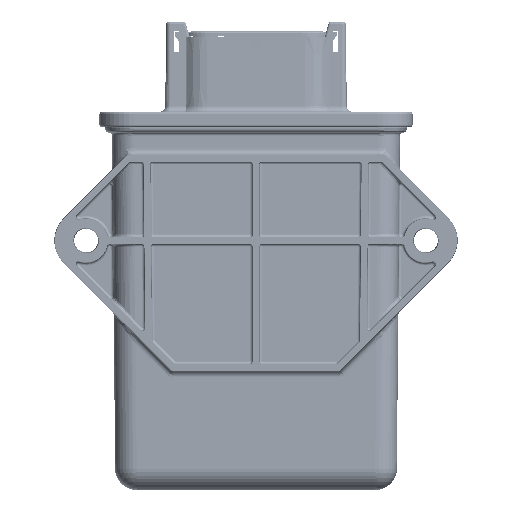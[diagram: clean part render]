
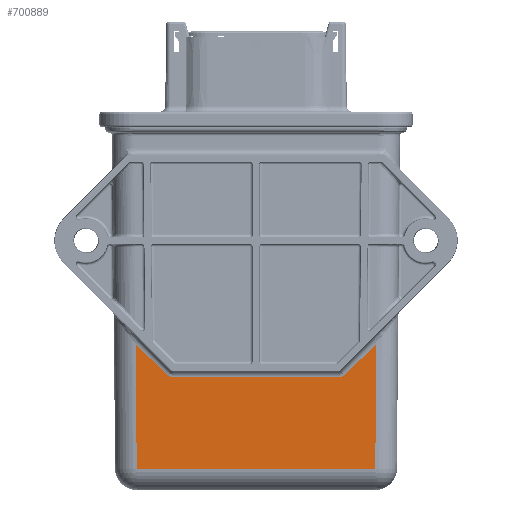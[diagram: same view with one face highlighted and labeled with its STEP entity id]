
A CAD part, front view. The second image highlights one B-rep face of the part: STEP entity #700889.
In plain terms, the highlighted planar face has unit normal (0, -1, -0.009) as drawn and (-1, 0, -0.009) by its records, which use the part's own axes.
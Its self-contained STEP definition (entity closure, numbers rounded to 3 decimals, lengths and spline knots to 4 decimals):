
#3366=ELLIPSE('',#747448,0.084,0.084);
#3367=ELLIPSE('',#747449,0.084,0.084);
#33593=PLANE('',#747447);
#67217=FACE_OUTER_BOUND('',#104185,.T.);
#104185=EDGE_LOOP('',(#620020,#620021,#620022,#620023,#620024,#620025,#620026,
#620027));
#184244=LINE('',#1120038,#265481);
#184245=LINE('',#1120042,#265482);
#184246=LINE('',#1120044,#265483);
#184247=LINE('',#1120046,#265484);
#184248=LINE('',#1120048,#265485);
#184249=LINE('',#1120050,#265486);
#265481=VECTOR('',#915263,0.3937);
#265482=VECTOR('',#915266,0.3937);
#265483=VECTOR('',#915267,0.3937);
#265484=VECTOR('',#915268,0.3937);
#265485=VECTOR('',#915269,0.3937);
#265486=VECTOR('',#915270,0.3937);
#340381=VERTEX_POINT('',#1120036);
#340382=VERTEX_POINT('',#1120037);
#340383=VERTEX_POINT('',#1120039);
#340384=VERTEX_POINT('',#1120041);
#340385=VERTEX_POINT('',#1120043);
#340386=VERTEX_POINT('',#1120045);
#340387=VERTEX_POINT('',#1120047);
#340388=VERTEX_POINT('',#1120049);
#434043=EDGE_CURVE('',#340381,#340382,#184244,.T.);
#434044=EDGE_CURVE('',#340383,#340381,#3366,.T.);
#434045=EDGE_CURVE('',#340384,#340383,#184245,.T.);
#434046=EDGE_CURVE('',#340385,#340384,#184246,.T.);
#434047=EDGE_CURVE('',#340386,#340385,#184247,.T.);
#434048=EDGE_CURVE('',#340387,#340386,#184248,.T.);
#434049=EDGE_CURVE('',#340388,#340387,#184249,.T.);
#434050=EDGE_CURVE('',#340382,#340388,#3367,.T.);
#620020=ORIENTED_EDGE('',*,*,#434043,.F.);
#620021=ORIENTED_EDGE('',*,*,#434044,.F.);
#620022=ORIENTED_EDGE('',*,*,#434045,.F.);
#620023=ORIENTED_EDGE('',*,*,#434046,.F.);
#620024=ORIENTED_EDGE('',*,*,#434047,.F.);
#620025=ORIENTED_EDGE('',*,*,#434048,.F.);
#620026=ORIENTED_EDGE('',*,*,#434049,.F.);
#620027=ORIENTED_EDGE('',*,*,#434050,.F.);
#700889=ADVANCED_FACE('',(#67217),#33593,.T.);
#747447=AXIS2_PLACEMENT_3D('',#1120035,#915261,#915262);
#747448=AXIS2_PLACEMENT_3D('',#1120040,#915264,#915265);
#747449=AXIS2_PLACEMENT_3D('',#1120051,#915271,#915272);
#915261=DIRECTION('center_axis',(-1.,0.,
-0.009));
#915262=DIRECTION('ref_axis',(0.,1.,0.));
#915263=DIRECTION('',(0.,-1.,0.));
#915264=DIRECTION('center_axis',(-1.,0.,
-0.009));
#915265=DIRECTION('ref_axis',(0.009,0.203,-0.979));
#915266=DIRECTION('',(0.006,-0.707,-0.707));
#915267=DIRECTION('',(-0.009,0.009,1.));
#915268=DIRECTION('',(0.,1.,0.));
#915269=DIRECTION('',(0.009,0.009,-1.));
#915270=DIRECTION('',(-0.006,-0.707,0.707));
#915271=DIRECTION('center_axis',(-1.,0.,
-0.009));
#915272=DIRECTION('ref_axis',(0.009,-0.203,-0.979));
#1120035=CARTESIAN_POINT('Origin',(-0.5721,1.316,0.));
#1120036=CARTESIAN_POINT('',(-0.5514,0.7595,-2.373));
#1120037=CARTESIAN_POINT('',(-0.5514,-0.7595,-2.373));
#1120038=CARTESIAN_POINT('',(-0.5514,1.0427,-2.373));
#1120039=CARTESIAN_POINT('',(-0.5516,0.8189,-2.3484));
#1120040=CARTESIAN_POINT('Origin',(-0.5521,0.7595,
-2.289));
#1120041=CARTESIAN_POINT('',(-0.5541,1.1002,-2.0672));
#1120042=CARTESIAN_POINT('',(-0.5621,2.0201,-1.1475));
#1120043=CARTESIAN_POINT('',(-0.5441,1.0903,-3.209));
#1120044=CARTESIAN_POINT('',(-0.5721,1.118,-0.0033));
#1120045=CARTESIAN_POINT('',(-0.5441,-1.0903,-3.209));
#1120046=CARTESIAN_POINT('',(-0.5441,0.658,-3.209));
#1120047=CARTESIAN_POINT('',(-0.5541,-1.1002,-2.0672));
#1120048=CARTESIAN_POINT('',(-0.572,-1.118,-0.0097));
#1120049=CARTESIAN_POINT('',(-0.5516,-0.8189,-2.3484));
#1120050=CARTESIAN_POINT('',(-0.5521,-0.8689,-2.2984));
#1120051=CARTESIAN_POINT('Origin',(-0.5521,-0.7595,
-2.289));
